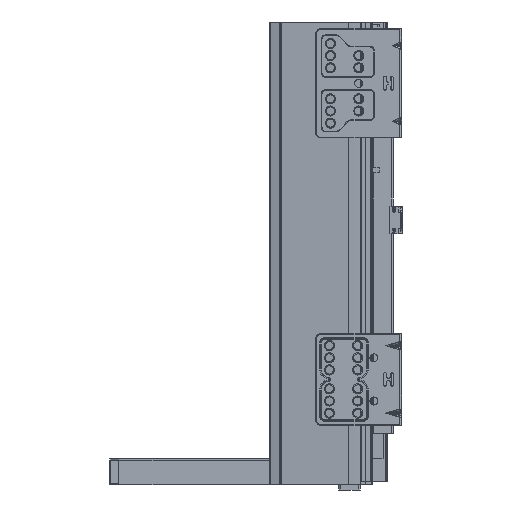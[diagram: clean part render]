
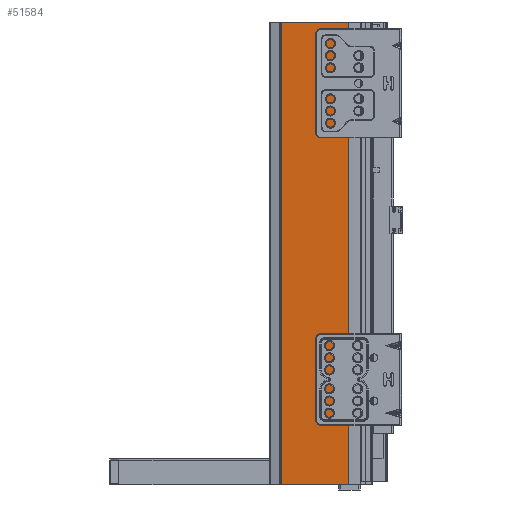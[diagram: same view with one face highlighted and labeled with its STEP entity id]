
A CAD part, left-side view. The second image highlights one B-rep face of the part: STEP entity #51584.
In plain terms, the highlighted planar face has unit normal (-0.996, 0.09, 0).
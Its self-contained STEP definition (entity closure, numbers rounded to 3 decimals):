
#1081=PLANE('',#54591);
#2736=FACE_OUTER_BOUND('',#5668,.T.);
#5668=EDGE_LOOP('',(#35103,#35104,#35105,#35106));
#8913=LINE('',#75273,#14299);
#8943=LINE('',#75366,#14329);
#8976=LINE('',#75449,#14362);
#8977=LINE('',#75451,#14363);
#14299=VECTOR('',#59688,50.178);
#14329=VECTOR('',#59774,50.178);
#14362=VECTOR('',#59867,343.);
#14363=VECTOR('',#59870,343.);
#21870=VERTEX_POINT('',#75270);
#21871=VERTEX_POINT('',#75272);
#21905=VERTEX_POINT('',#75363);
#21906=VERTEX_POINT('',#75365);
#27011=EDGE_CURVE('',#21870,#21871,#8913,.T.);
#27058=EDGE_CURVE('',#21905,#21906,#8943,.T.);
#27100=EDGE_CURVE('',#21906,#21870,#8976,.T.);
#27101=EDGE_CURVE('',#21871,#21905,#8977,.T.);
#35103=ORIENTED_EDGE('',*,*,#27058,.F.);
#35104=ORIENTED_EDGE('',*,*,#27101,.F.);
#35105=ORIENTED_EDGE('',*,*,#27011,.F.);
#35106=ORIENTED_EDGE('',*,*,#27100,.F.);
#51584=ADVANCED_FACE('',(#2736),#1081,.T.);
#54591=AXIS2_PLACEMENT_3D('',#75450,#59868,#59869);
#59688=DIRECTION('',(0.091,0.996,0.));
#59774=DIRECTION('',(-0.091,-0.996,0.));
#59867=DIRECTION('',(0.,0.,-1.));
#59868=DIRECTION('center_axis',(-0.996,0.091,0.));
#59869=DIRECTION('ref_axis',(0.091,0.996,0.));
#59870=DIRECTION('',(0.,0.,1.));
#75270=CARTESIAN_POINT('',(-2.932,216.931,-429.639));
#75272=CARTESIAN_POINT('',(1.611,266.903,-429.639));
#75273=CARTESIAN_POINT('',(-2.932,216.931,-429.639));
#75363=CARTESIAN_POINT('',(1.611,266.903,-86.639));
#75365=CARTESIAN_POINT('',(-2.932,216.931,-86.639));
#75366=CARTESIAN_POINT('',(1.611,266.903,-86.639));
#75449=CARTESIAN_POINT('',(-2.932,216.931,-86.639));
#75450=CARTESIAN_POINT('Origin',(-0.66,241.917,-86.639));
#75451=CARTESIAN_POINT('',(1.611,266.903,-429.639));
